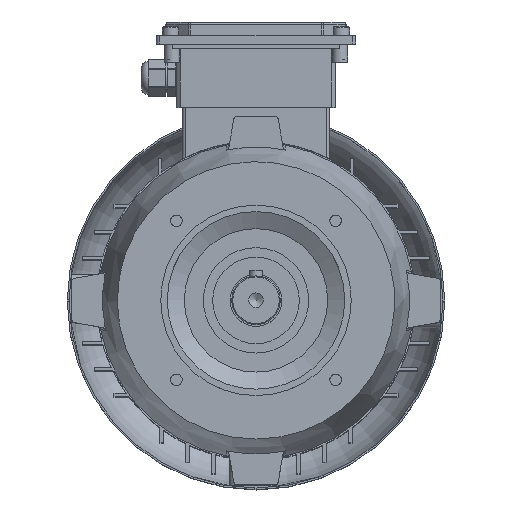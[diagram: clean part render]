
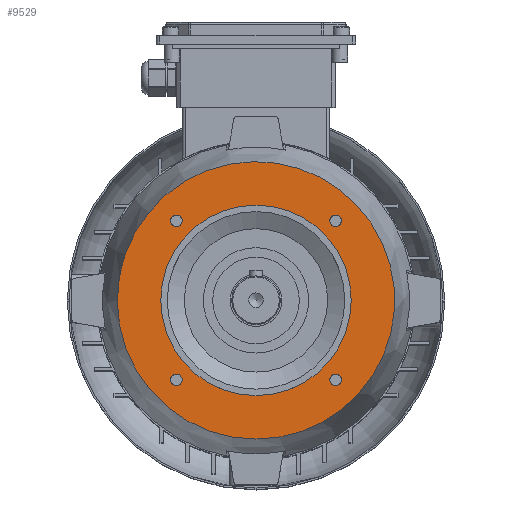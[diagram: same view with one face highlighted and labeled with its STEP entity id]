
A CAD part, top view. The second image highlights one B-rep face of the part: STEP entity #9529.
In plain terms, the highlighted planar face has unit normal (0, 0, 1).
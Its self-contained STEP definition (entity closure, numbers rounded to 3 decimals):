
#1843=FACE_BOUND('',#3179,.T.);
#1844=FACE_BOUND('',#3180,.T.);
#1845=FACE_BOUND('',#3181,.T.);
#1846=FACE_BOUND('',#3182,.T.);
#1847=FACE_BOUND('',#3183,.T.);
#1848=FACE_BOUND('',#3184,.T.);
#3179=EDGE_LOOP('',(#8498));
#3180=EDGE_LOOP('',(#8499));
#3181=EDGE_LOOP('',(#8500));
#3182=EDGE_LOOP('',(#8501));
#3183=EDGE_LOOP('',(#8502));
#3184=EDGE_LOOP('',(#8503));
#3660=CIRCLE('',#10487,80.089);
#3666=CIRCLE('',#10499,3.324);
#3667=CIRCLE('',#10501,3.324);
#3668=CIRCLE('',#10503,3.324);
#3669=CIRCLE('',#10505,3.324);
#3672=CIRCLE('',#10510,55.);
#4561=VERTEX_POINT('',#17206);
#4567=VERTEX_POINT('',#17224);
#4568=VERTEX_POINT('',#17227);
#4569=VERTEX_POINT('',#17230);
#4570=VERTEX_POINT('',#17233);
#4573=VERTEX_POINT('',#17241);
#5898=EDGE_CURVE('',#4561,#4561,#3660,.T.);
#5904=EDGE_CURVE('',#4567,#4567,#3666,.T.);
#5905=EDGE_CURVE('',#4568,#4568,#3667,.T.);
#5906=EDGE_CURVE('',#4569,#4569,#3668,.T.);
#5907=EDGE_CURVE('',#4570,#4570,#3669,.T.);
#5910=EDGE_CURVE('',#4573,#4573,#3672,.T.);
#8498=ORIENTED_EDGE('',*,*,#5904,.T.);
#8499=ORIENTED_EDGE('',*,*,#5905,.T.);
#8500=ORIENTED_EDGE('',*,*,#5906,.T.);
#8501=ORIENTED_EDGE('',*,*,#5907,.T.);
#8502=ORIENTED_EDGE('',*,*,#5910,.F.);
#8503=ORIENTED_EDGE('',*,*,#5898,.F.);
#9008=PLANE('',#10511);
#9529=ADVANCED_FACE('',(#1843,#1844,#1845,#1846,#1847,#1848),#9008,.T.);
#10487=AXIS2_PLACEMENT_3D('',#17207,#13110,#13111);
#10499=AXIS2_PLACEMENT_3D('',#17225,#13134,#13135);
#10501=AXIS2_PLACEMENT_3D('',#17228,#13138,#13139);
#10503=AXIS2_PLACEMENT_3D('',#17231,#13142,#13143);
#10505=AXIS2_PLACEMENT_3D('',#17234,#13146,#13147);
#10510=AXIS2_PLACEMENT_3D('',#17242,#13156,#13157);
#10511=AXIS2_PLACEMENT_3D('',#17243,#13158,#13159);
#13110=DIRECTION('center_axis',(0.,0.,-1.));
#13111=DIRECTION('ref_axis',(0.,1.,0.));
#13134=DIRECTION('center_axis',(0.,0.,-1.));
#13135=DIRECTION('ref_axis',(0.,-1.,0.));
#13138=DIRECTION('center_axis',(0.,0.,-1.));
#13139=DIRECTION('ref_axis',(-1.,0.,0.));
#13142=DIRECTION('center_axis',(0.,0.,-1.));
#13143=DIRECTION('ref_axis',(0.,1.,0.));
#13146=DIRECTION('center_axis',(0.,0.,-1.));
#13147=DIRECTION('ref_axis',(1.,0.,0.));
#13156=DIRECTION('center_axis',(0.,0.,1.));
#13157=DIRECTION('ref_axis',(-1.,0.,0.));
#13158=DIRECTION('center_axis',(0.,0.,1.));
#13159=DIRECTION('ref_axis',(1.,0.,0.));
#17206=CARTESIAN_POINT('',(0.,-80.089,39.));
#17207=CARTESIAN_POINT('Origin',(0.,0.,39.));
#17224=CARTESIAN_POINT('',(45.962,42.638,39.));
#17225=CARTESIAN_POINT('Origin',(45.962,45.962,39.));
#17227=CARTESIAN_POINT('',(42.638,-45.962,39.));
#17228=CARTESIAN_POINT('Origin',(45.962,-45.962,39.));
#17230=CARTESIAN_POINT('',(-45.962,-42.638,39.));
#17231=CARTESIAN_POINT('Origin',(-45.962,-45.962,39.));
#17233=CARTESIAN_POINT('',(-42.638,45.962,39.));
#17234=CARTESIAN_POINT('Origin',(-45.962,45.962,39.));
#17241=CARTESIAN_POINT('',(55.,0.,39.));
#17242=CARTESIAN_POINT('Origin',(0.,0.,39.));
#17243=CARTESIAN_POINT('Origin',(0.,0.,
39.));
